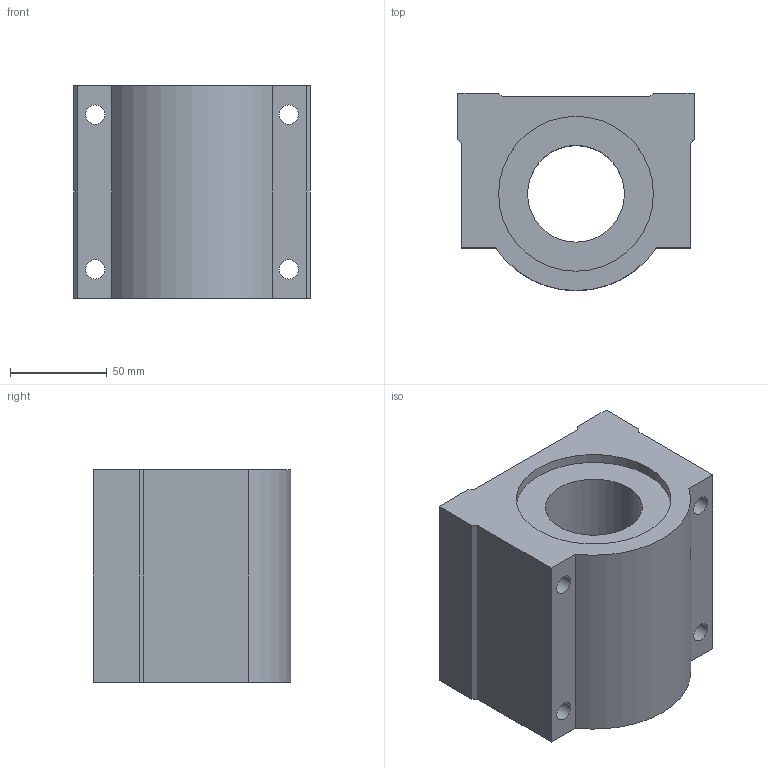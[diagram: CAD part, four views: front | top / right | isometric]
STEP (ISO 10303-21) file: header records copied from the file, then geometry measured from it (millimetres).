
FILE_DESCRIPTION((''),'2;1');
FILE_NAME('C:\Documents and Settings\ｿﾀﾀ蠑ｷ1\ｹﾙﾅﾁ ﾈｭｸ饅\ｺﾎﾇｰﾆﾄﾀﾏ\ﾁｦﾇｰ\SC__UU\SC50UU.stp','2005-06-22T14:39:56',('ｿﾀﾀ蠑ｷ1'),(''),'Autodesk Inventor 9','Autodesk Inventor 9','');
FILE_SCHEMA(('AUTOMOTIVE_DESIGN { 1 0 10303 214 1 1 1 1 }'));
Length unit declared in the file: millimetre
Products named in the file (1): SC__UU
Bounding box: 122 x 102 x 110 mm (x, y, z)
Volume: 901419.7 mm3; surface area: 91039.4 mm2
Topology: 1 solids, 1 shells, 32 faces, 84 edges, 56 vertices
Faces by surface type: plane 17, bspline 8, cylinder 7
Entity records: 1145 total; most frequent: CARTESIAN_POINT 309, ORIENTED_EDGE 168, DIRECTION 164, EDGE_CURVE 84, VERTEX_POINT 56, AXIS2_PLACEMENT_3D 55, VECTOR 54, LINE 54
